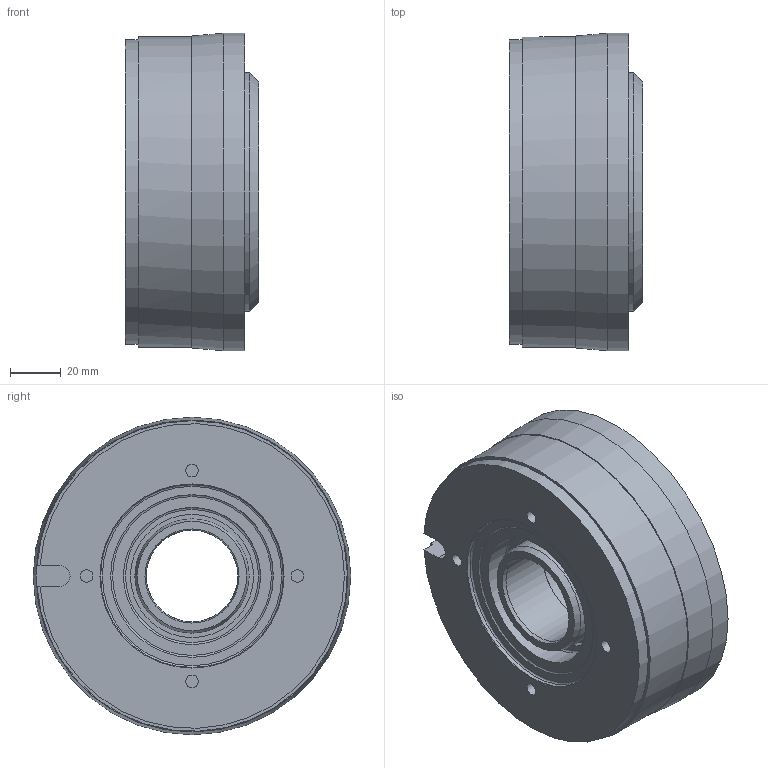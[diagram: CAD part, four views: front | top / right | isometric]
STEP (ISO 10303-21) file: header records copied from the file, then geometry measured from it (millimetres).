
FILE_DESCRIPTION (( 'STEP AP214' ), '1' );
FILE_NAME ('86 61111Pxx_PF-ID 216516_Index -.STEP', '2020-02-06T14:28:49', ( '' ), ( '' ), 'SwSTEP 2.0', 'SolidWorks 2018', '' );
FILE_SCHEMA (( 'AUTOMOTIVE_DESIGN' ));
Length unit declared in the file: millimetre
Products named in the file (1): 86 61111Pxx_PF-ID 216516_Index -
Bounding box: 52.4 x 125 x 125 mm (x, y, z)
Volume: 501444.8 mm3; surface area: 87387.1 mm2
Topology: 1 solids, 1 shells, 77 faces, 141 edges, 87 vertices
Faces by surface type: cylinder 31, plane 27, cone 11, torus 8
Full cylindrical faces by diameter (mm): 5 x4, 8.5 x3, 36 x1, 36.2 x1, 45 x3, 48.5 x2, 49.1 x1, 54 x1, 57 x1, 58 x1, 60 x1, 72 x1, 94 x2, 120 x1, 120.5 x1, 121 x1, 121.5 x1, 122.3 x1, 123 x1, 125 x1
Entity records: 2147 total; most frequent: CARTESIAN_POINT 644, DIRECTION 314, ORIENTED_EDGE 182, EDGE_LOOP 154, AXIS2_PLACEMENT_3D 151, FACE_OUTER_BOUND 114, EDGE_CURVE 91, VERTEX_POINT 85
